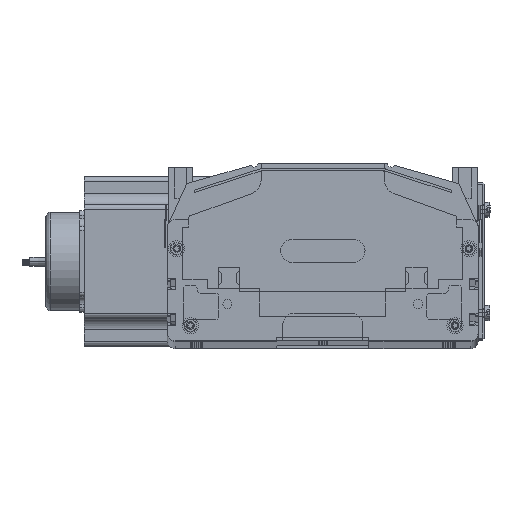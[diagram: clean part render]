
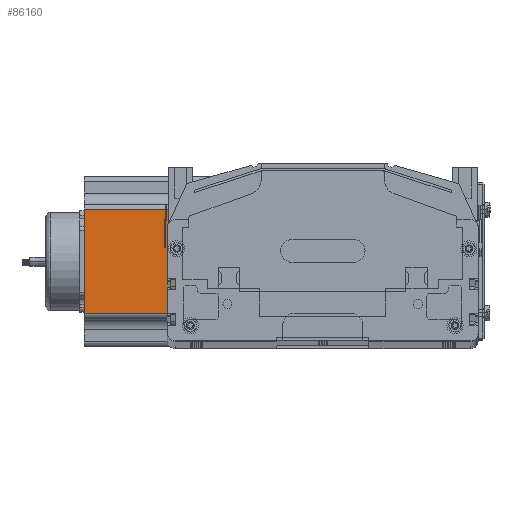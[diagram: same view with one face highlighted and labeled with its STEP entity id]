
A CAD part, top view. The second image highlights one B-rep face of the part: STEP entity #86160.
In plain terms, the highlighted planar face has unit normal (0, 0, 1) as drawn and (0, -1, 0) by its records, which use the part's own axes.
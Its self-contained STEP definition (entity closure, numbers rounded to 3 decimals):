
#1910 = DIRECTION ( 'NONE',  ( 0., 0., -1. ) ) ;
#1917 = LINE ( 'NONE', #2040, #2039 ) ;
#2001 = LINE ( 'NONE', #2014, #2031 ) ;
#2004 = CARTESIAN_POINT ( 'NONE',  ( 21.048, 0., 160.5 ) ) ;
#2005 = LINE ( 'NONE', #2004, #2018 ) ;
#2012 = DIRECTION ( 'NONE',  ( 1., 0., 0. ) ) ;
#2014 = CARTESIAN_POINT ( 'NONE',  ( 0., 0., 160.5 ) ) ;
#2018 = VECTOR ( 'NONE', #1910, 1000. ) ;
#2031 = VECTOR ( 'NONE', #2012, 1000. ) ;
#2038 = DIRECTION ( 'NONE',  ( 0., 0., 1. ) ) ;
#2039 = VECTOR ( 'NONE', #2038, 1000. ) ;
#2040 = CARTESIAN_POINT ( 'NONE',  ( 88.952, 0., 160.5 ) ) ;
#2110 = CARTESIAN_POINT ( 'NONE',  ( 0., 0., 160.5 ) ) ;
#2111 = FACE_OUTER_BOUND ( 'NONE', #86162, .T. ) ;
#2113 = DIRECTION ( 'NONE',  ( 0., 0., 1. ) ) ;
#2114 = DIRECTION ( 'NONE',  ( 0., 1., 0. ) ) ;
#2116 = PLANE ( 'NONE',  #2121 ) ;
#2121 = AXIS2_PLACEMENT_3D ( 'NONE', #2110, #2114, #2113 ) ;
#2270 = CARTESIAN_POINT ( 'NONE',  ( 21.048, 0., 160.5 ) ) ;
#2330 = CARTESIAN_POINT ( 'NONE',  ( 88.952, 0., 0. ) ) ;
#2373 = CARTESIAN_POINT ( 'NONE',  ( 0., 0., 0. ) ) ;
#2374 = LINE ( 'NONE', #2373, #2417 ) ;
#2416 = DIRECTION ( 'NONE',  ( 1., 0., 0. ) ) ;
#2417 = VECTOR ( 'NONE', #2416, 1000. ) ;
#2489 = CARTESIAN_POINT ( 'NONE',  ( 21.048, 0., 0. ) ) ;
#2524 = CARTESIAN_POINT ( 'NONE',  ( 88.952, 0., 160.5 ) ) ;
#86044 = ORIENTED_EDGE ( 'NONE', *, *, #86246, .T. ) ;
#86059 = EDGE_CURVE ( 'NONE', #86239, #86298, #1917, .T. ) ;
#86078 = ORIENTED_EDGE ( 'NONE', *, *, #86059, .T. ) ;
#86079 = EDGE_CURVE ( 'NONE', #86161, #86298, #2001, .T. ) ;
#86082 = ORIENTED_EDGE ( 'NONE', *, *, #86079, .F. ) ;
#86083 = EDGE_CURVE ( 'NONE', #86161, #86296, #2005, .T. ) ;
#86160 = ADVANCED_FACE ( 'NONE', ( #2111 ), #2116, .F. ) ;
#86161 = VERTEX_POINT ( 'NONE', #2270 ) ;
#86162 = EDGE_LOOP ( 'NONE', ( #86044, #86078, #86082, #86299 ) ) ;
#86239 = VERTEX_POINT ( 'NONE', #2330 ) ;
#86246 = EDGE_CURVE ( 'NONE', #86296, #86239, #2374, .T. ) ;
#86296 = VERTEX_POINT ( 'NONE', #2489 ) ;
#86298 = VERTEX_POINT ( 'NONE', #2524 ) ;
#86299 = ORIENTED_EDGE ( 'NONE', *, *, #86083, .T. ) ;
